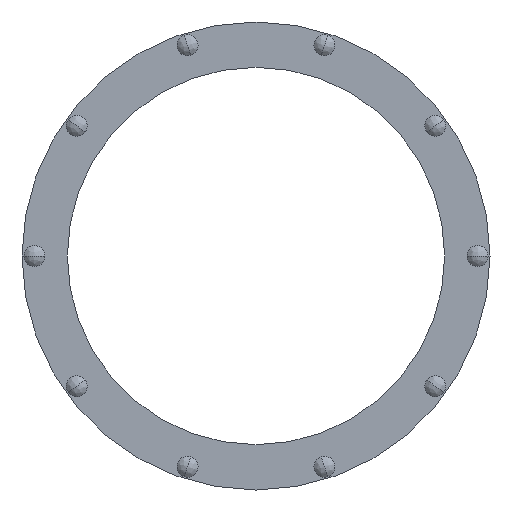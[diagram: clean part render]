
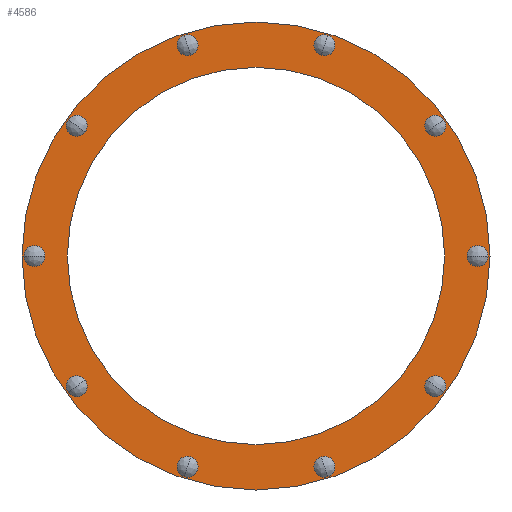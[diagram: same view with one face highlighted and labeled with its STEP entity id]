
A CAD part, front view. The second image highlights one B-rep face of the part: STEP entity #4586.
In plain terms, the highlighted planar face has unit normal (0, -1, 0).
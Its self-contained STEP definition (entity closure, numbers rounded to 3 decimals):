
#1613=CARTESIAN_POINT('',(0.,-151.,0.));
#1614=DIRECTION('',(0.,-1.,0.));
#1615=DIRECTION('',(-1.,0.,0.));
#1616=AXIS2_PLACEMENT_3D('',#1613,#1614,#1615);
#1622=CARTESIAN_POINT('',(0.,-151.,0.));
#1623=DIRECTION('',(0.,1.,0.));
#1624=DIRECTION('',(-1.,0.,0.));
#1625=AXIS2_PLACEMENT_3D('',#1622,#1623,#1624);
#1631=CARTESIAN_POINT('',(0.,-151.,0.));
#1632=DIRECTION('',(0.,-1.,0.));
#1633=DIRECTION('',(-1.,0.,0.));
#1634=AXIS2_PLACEMENT_3D('',#1631,#1632,#1633);
#1636=CARTESIAN_POINT('',(0.,-151.,0.));
#1637=DIRECTION('',(0.,1.,0.));
#1638=DIRECTION('',(-1.,0.,0.));
#1639=AXIS2_PLACEMENT_3D('',#1636,#1637,#1638);
#1641=CARTESIAN_POINT('',(-269.,-151.,0.));
#1642=DIRECTION('',(0.,1.,0.));
#1643=DIRECTION('',(-1.,0.,0.));
#1644=AXIS2_PLACEMENT_3D('',#1641,#1642,#1643);
#1646=CARTESIAN_POINT('',(-269.,-151.,0.));
#1647=DIRECTION('',(0.,1.,0.));
#1648=DIRECTION('',(1.,0.,0.));
#1649=AXIS2_PLACEMENT_3D('',#1646,#1647,#1648);
#1651=CARTESIAN_POINT('',(-217.626,-151.,-158.114));
#1652=DIRECTION('',(0.,1.,0.));
#1653=DIRECTION('',(-0.809,0.,-0.588));
#1654=AXIS2_PLACEMENT_3D('',#1651,#1652,#1653);
#1656=CARTESIAN_POINT('',(-217.626,-151.,-158.114));
#1657=DIRECTION('',(0.,1.,0.));
#1658=DIRECTION('',(0.809,0.,0.588));
#1659=AXIS2_PLACEMENT_3D('',#1656,#1657,#1658);
#1661=CARTESIAN_POINT('',(-83.126,-151.,-255.834));
#1662=DIRECTION('',(0.,1.,0.));
#1663=DIRECTION('',(-0.309,0.,-0.951));
#1664=AXIS2_PLACEMENT_3D('',#1661,#1662,#1663);
#1666=CARTESIAN_POINT('',(-83.126,-151.,-255.834));
#1667=DIRECTION('',(0.,1.,0.));
#1668=DIRECTION('',(0.309,0.,0.951));
#1669=AXIS2_PLACEMENT_3D('',#1666,#1667,#1668);
#1671=CARTESIAN_POINT('',(83.126,-151.,-255.834));
#1672=DIRECTION('',(0.,1.,0.));
#1673=DIRECTION('',(0.309,0.,-0.951));
#1674=AXIS2_PLACEMENT_3D('',#1671,#1672,#1673);
#1676=CARTESIAN_POINT('',(83.126,-151.,-255.834));
#1677=DIRECTION('',(0.,1.,0.));
#1678=DIRECTION('',(-0.309,0.,0.951));
#1679=AXIS2_PLACEMENT_3D('',#1676,#1677,#1678);
#1681=CARTESIAN_POINT('',(217.626,-151.,-158.114));
#1682=DIRECTION('',(0.,1.,0.));
#1683=DIRECTION('',(0.809,0.,-0.588));
#1684=AXIS2_PLACEMENT_3D('',#1681,#1682,#1683);
#1686=CARTESIAN_POINT('',(217.626,-151.,-158.114));
#1687=DIRECTION('',(0.,1.,0.));
#1688=DIRECTION('',(-0.809,0.,0.588));
#1689=AXIS2_PLACEMENT_3D('',#1686,#1687,#1688);
#1691=CARTESIAN_POINT('',(269.,-151.,0.));
#1692=DIRECTION('',(0.,1.,0.));
#1693=DIRECTION('',(1.,0.,0.));
#1694=AXIS2_PLACEMENT_3D('',#1691,#1692,#1693);
#1696=CARTESIAN_POINT('',(269.,-151.,0.));
#1697=DIRECTION('',(0.,1.,0.));
#1698=DIRECTION('',(-1.,0.,0.));
#1699=AXIS2_PLACEMENT_3D('',#1696,#1697,#1698);
#1701=CARTESIAN_POINT('',(217.626,-151.,158.114));
#1702=DIRECTION('',(0.,1.,0.));
#1703=DIRECTION('',(0.809,0.,0.588));
#1704=AXIS2_PLACEMENT_3D('',#1701,#1702,#1703);
#1706=CARTESIAN_POINT('',(217.626,-151.,158.114));
#1707=DIRECTION('',(0.,1.,0.));
#1708=DIRECTION('',(-0.809,0.,-0.588));
#1709=AXIS2_PLACEMENT_3D('',#1706,#1707,#1708);
#1711=CARTESIAN_POINT('',(83.126,-151.,255.834));
#1712=DIRECTION('',(0.,1.,0.));
#1713=DIRECTION('',(0.309,0.,0.951));
#1714=AXIS2_PLACEMENT_3D('',#1711,#1712,#1713);
#1716=CARTESIAN_POINT('',(83.126,-151.,255.834));
#1717=DIRECTION('',(0.,1.,0.));
#1718=DIRECTION('',(-0.309,0.,-0.951));
#1719=AXIS2_PLACEMENT_3D('',#1716,#1717,#1718);
#1721=CARTESIAN_POINT('',(-83.126,-151.,255.834));
#1722=DIRECTION('',(0.,1.,0.));
#1723=DIRECTION('',(-0.309,0.,0.951));
#1724=AXIS2_PLACEMENT_3D('',#1721,#1722,#1723);
#1726=CARTESIAN_POINT('',(-83.126,-151.,255.834));
#1727=DIRECTION('',(0.,1.,0.));
#1728=DIRECTION('',(0.309,0.,-0.951));
#1729=AXIS2_PLACEMENT_3D('',#1726,#1727,#1728);
#1731=CARTESIAN_POINT('',(-217.626,-151.,158.114));
#1732=DIRECTION('',(0.,1.,0.));
#1733=DIRECTION('',(-0.809,0.,0.588));
#1734=AXIS2_PLACEMENT_3D('',#1731,#1732,#1733);
#1736=CARTESIAN_POINT('',(-217.626,-151.,158.114));
#1737=DIRECTION('',(0.,1.,0.));
#1738=DIRECTION('',(0.809,0.,-0.588));
#1739=AXIS2_PLACEMENT_3D('',#1736,#1737,#1738);
#3239=CARTESIAN_POINT('',(-284.,-151.,0.));
#3241=VERTEX_POINT('',#3239);
#3242=CARTESIAN_POINT('',(-229.,-151.,0.));
#3244=VERTEX_POINT('',#3242);
#3257=CARTESIAN_POINT('',(284.,-151.,0.));
#3259=VERTEX_POINT('',#3257);
#3260=CARTESIAN_POINT('',(229.,-151.,0.));
#3262=VERTEX_POINT('',#3260);
#3330=CARTESIAN_POINT('',(-281.75,-151.,0.));
#3331=VERTEX_POINT('',#3330);
#3332=CARTESIAN_POINT('',(-256.25,-151.,0.));
#3333=VERTEX_POINT('',#3332);
#3372=CARTESIAN_POINT('',(-227.941,-151.,-165.608));
#3373=VERTEX_POINT('',#3372);
#3374=CARTESIAN_POINT('',(-207.311,-151.,-150.62));
#3375=VERTEX_POINT('',#3374);
#3414=CARTESIAN_POINT('',(-87.066,-151.,-267.96));
#3415=VERTEX_POINT('',#3414);
#3416=CARTESIAN_POINT('',(-79.186,-151.,-243.708));
#3417=VERTEX_POINT('',#3416);
#3456=CARTESIAN_POINT('',(87.066,-151.,-267.96));
#3457=VERTEX_POINT('',#3456);
#3458=CARTESIAN_POINT('',(79.186,-151.,-243.708));
#3459=VERTEX_POINT('',#3458);
#3498=CARTESIAN_POINT('',(227.941,-151.,-165.608));
#3499=VERTEX_POINT('',#3498);
#3500=CARTESIAN_POINT('',(207.311,-151.,-150.62));
#3501=VERTEX_POINT('',#3500);
#3540=CARTESIAN_POINT('',(281.75,-151.,0.));
#3541=VERTEX_POINT('',#3540);
#3542=CARTESIAN_POINT('',(256.25,-151.,0.));
#3543=VERTEX_POINT('',#3542);
#3602=CARTESIAN_POINT('',(227.941,-151.,165.608));
#3603=VERTEX_POINT('',#3602);
#3604=CARTESIAN_POINT('',(207.311,-151.,150.62));
#3605=VERTEX_POINT('',#3604);
#3644=CARTESIAN_POINT('',(87.066,-151.,267.96));
#3645=VERTEX_POINT('',#3644);
#3646=CARTESIAN_POINT('',(79.186,-151.,243.708));
#3647=VERTEX_POINT('',#3646);
#3686=CARTESIAN_POINT('',(-87.066,-151.,267.96));
#3687=VERTEX_POINT('',#3686);
#3688=CARTESIAN_POINT('',(-79.186,-151.,243.708));
#3689=VERTEX_POINT('',#3688);
#3728=CARTESIAN_POINT('',(-227.941,-151.,165.608));
#3729=VERTEX_POINT('',#3728);
#3730=CARTESIAN_POINT('',(-207.311,-151.,150.62));
#3731=VERTEX_POINT('',#3730);
#4511=CARTESIAN_POINT('',(0.,-151.,0.));
#4512=DIRECTION('',(0.,-1.,0.));
#4513=DIRECTION('',(-1.,0.,0.));
#4514=AXIS2_PLACEMENT_3D('',#4511,#4512,#4513);
#4515=PLANE('',#4514);
#4517=ORIENTED_EDGE('',*,*,#4516,.F.);
#4519=ORIENTED_EDGE('',*,*,#4518,.T.);
#4520=EDGE_LOOP('',(#4517,#4519));
#4521=FACE_OUTER_BOUND('',#4520,.F.);
#4522=ORIENTED_EDGE('',*,*,#4504,.F.);
#4523=ORIENTED_EDGE('',*,*,#4493,.T.);
#4524=EDGE_LOOP('',(#4522,#4523));
#4525=FACE_BOUND('',#4524,.F.);
#4527=ORIENTED_EDGE('',*,*,#4526,.F.);
#4529=ORIENTED_EDGE('',*,*,#4528,.F.);
#4530=EDGE_LOOP('',(#4527,#4529));
#4531=FACE_BOUND('',#4530,.F.);
#4533=ORIENTED_EDGE('',*,*,#4532,.F.);
#4535=ORIENTED_EDGE('',*,*,#4534,.F.);
#4536=EDGE_LOOP('',(#4533,#4535));
#4537=FACE_BOUND('',#4536,.F.);
#4539=ORIENTED_EDGE('',*,*,#4538,.F.);
#4541=ORIENTED_EDGE('',*,*,#4540,.F.);
#4542=EDGE_LOOP('',(#4539,#4541));
#4543=FACE_BOUND('',#4542,.F.);
#4545=ORIENTED_EDGE('',*,*,#4544,.F.);
#4547=ORIENTED_EDGE('',*,*,#4546,.F.);
#4548=EDGE_LOOP('',(#4545,#4547));
#4549=FACE_BOUND('',#4548,.F.);
#4551=ORIENTED_EDGE('',*,*,#4550,.F.);
#4553=ORIENTED_EDGE('',*,*,#4552,.F.);
#4554=EDGE_LOOP('',(#4551,#4553));
#4555=FACE_BOUND('',#4554,.F.);
#4557=ORIENTED_EDGE('',*,*,#4556,.F.);
#4559=ORIENTED_EDGE('',*,*,#4558,.F.);
#4560=EDGE_LOOP('',(#4557,#4559));
#4561=FACE_BOUND('',#4560,.F.);
#4563=ORIENTED_EDGE('',*,*,#4562,.F.);
#4565=ORIENTED_EDGE('',*,*,#4564,.F.);
#4566=EDGE_LOOP('',(#4563,#4565));
#4567=FACE_BOUND('',#4566,.F.);
#4569=ORIENTED_EDGE('',*,*,#4568,.F.);
#4571=ORIENTED_EDGE('',*,*,#4570,.F.);
#4572=EDGE_LOOP('',(#4569,#4571));
#4573=FACE_BOUND('',#4572,.F.);
#4575=ORIENTED_EDGE('',*,*,#4574,.F.);
#4577=ORIENTED_EDGE('',*,*,#4576,.F.);
#4578=EDGE_LOOP('',(#4575,#4577));
#4579=FACE_BOUND('',#4578,.F.);
#4581=ORIENTED_EDGE('',*,*,#4580,.F.);
#4583=ORIENTED_EDGE('',*,*,#4582,.F.);
#4584=EDGE_LOOP('',(#4581,#4583));
#4585=FACE_BOUND('',#4584,.F.);
#4586=ADVANCED_FACE('',(#4521,#4525,#4531,#4537,#4543,#4549,#4555,#4561,#4567,
#4573,#4579,#4585),#4515,.T.);
#1617=CIRCLE('',#1616,229.);
#1626=CIRCLE('',#1625,229.);
#1635=CIRCLE('',#1634,284.);
#1640=CIRCLE('',#1639,284.);
#1645=CIRCLE('',#1644,12.75);
#1650=CIRCLE('',#1649,12.75);
#1655=CIRCLE('',#1654,12.75);
#1660=CIRCLE('',#1659,12.75);
#1665=CIRCLE('',#1664,12.75);
#1670=CIRCLE('',#1669,12.75);
#1675=CIRCLE('',#1674,12.75);
#1680=CIRCLE('',#1679,12.75);
#1685=CIRCLE('',#1684,12.75);
#1690=CIRCLE('',#1689,12.75);
#1695=CIRCLE('',#1694,12.75);
#1700=CIRCLE('',#1699,12.75);
#1705=CIRCLE('',#1704,12.75);
#1710=CIRCLE('',#1709,12.75);
#1715=CIRCLE('',#1714,12.75);
#1720=CIRCLE('',#1719,12.75);
#1725=CIRCLE('',#1724,12.75);
#1730=CIRCLE('',#1729,12.75);
#1735=CIRCLE('',#1734,12.75);
#1740=CIRCLE('',#1739,12.75);
#4493=EDGE_CURVE('',#3244,#3262,#1617,.T.);
#4504=EDGE_CURVE('',#3244,#3262,#1626,.T.);
#4516=EDGE_CURVE('',#3241,#3259,#1635,.T.);
#4518=EDGE_CURVE('',#3241,#3259,#1640,.T.);
#4526=EDGE_CURVE('',#3331,#3333,#1645,.T.);
#4528=EDGE_CURVE('',#3333,#3331,#1650,.T.);
#4532=EDGE_CURVE('',#3373,#3375,#1655,.T.);
#4534=EDGE_CURVE('',#3375,#3373,#1660,.T.);
#4538=EDGE_CURVE('',#3415,#3417,#1665,.T.);
#4540=EDGE_CURVE('',#3417,#3415,#1670,.T.);
#4544=EDGE_CURVE('',#3457,#3459,#1675,.T.);
#4546=EDGE_CURVE('',#3459,#3457,#1680,.T.);
#4550=EDGE_CURVE('',#3499,#3501,#1685,.T.);
#4552=EDGE_CURVE('',#3501,#3499,#1690,.T.);
#4556=EDGE_CURVE('',#3541,#3543,#1695,.T.);
#4558=EDGE_CURVE('',#3543,#3541,#1700,.T.);
#4562=EDGE_CURVE('',#3603,#3605,#1705,.T.);
#4564=EDGE_CURVE('',#3605,#3603,#1710,.T.);
#4568=EDGE_CURVE('',#3645,#3647,#1715,.T.);
#4570=EDGE_CURVE('',#3647,#3645,#1720,.T.);
#4574=EDGE_CURVE('',#3687,#3689,#1725,.T.);
#4576=EDGE_CURVE('',#3689,#3687,#1730,.T.);
#4580=EDGE_CURVE('',#3729,#3731,#1735,.T.);
#4582=EDGE_CURVE('',#3731,#3729,#1740,.T.);
